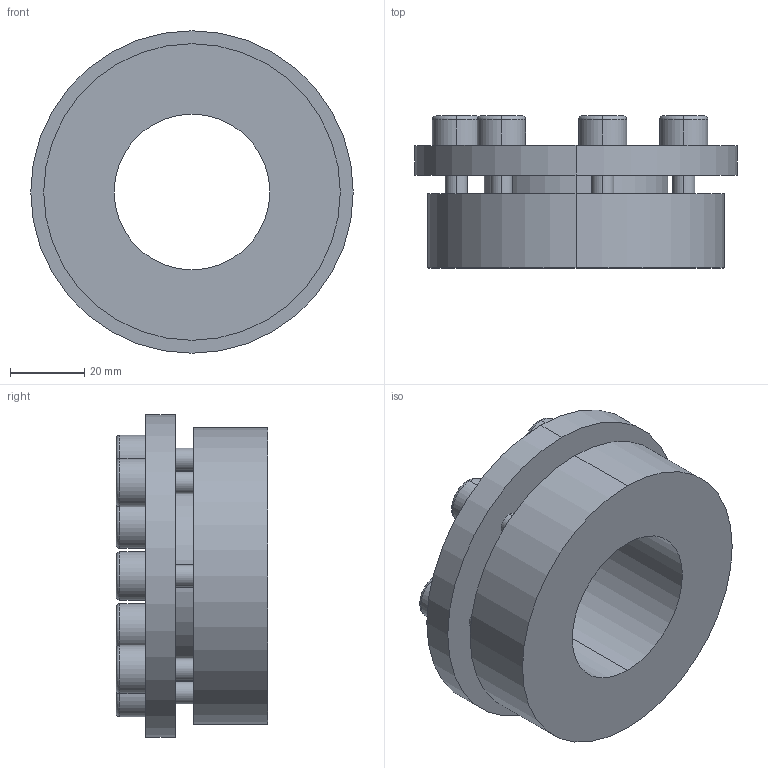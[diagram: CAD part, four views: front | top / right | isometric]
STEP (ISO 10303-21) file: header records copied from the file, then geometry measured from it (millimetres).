
FILE_DESCRIPTION (( 'STEP AP203' ), '1' );
FILE_NAME ('PL-H4 42-80.STEP', '2021-10-23T01:21:14', ( '' ), ( '' ), 'SwSTEP 2.0', 'SolidWorks 2018', '' );
FILE_SCHEMA (( 'CONFIG_CONTROL_DESIGN' ));
Length unit declared in the file: millimetre
Products named in the file (1): PL-H4 42-80
Bounding box: 87 x 41 x 87 mm (x, y, z)
Volume: 119520.2 mm3; surface area: 30660.7 mm2
Topology: 1 solids, 1 shells, 110 faces, 262 edges, 170 vertices
Faces by surface type: plane 60, cylinder 36, torus 14
Entity records: 3303 total; most frequent: DIRECTION 584, CARTESIAN_POINT 543, ORIENTED_EDGE 524, EDGE_CURVE 262, AXIS2_PLACEMENT_3D 211, VERTEX_POINT 170, LINE 162, VECTOR 162
